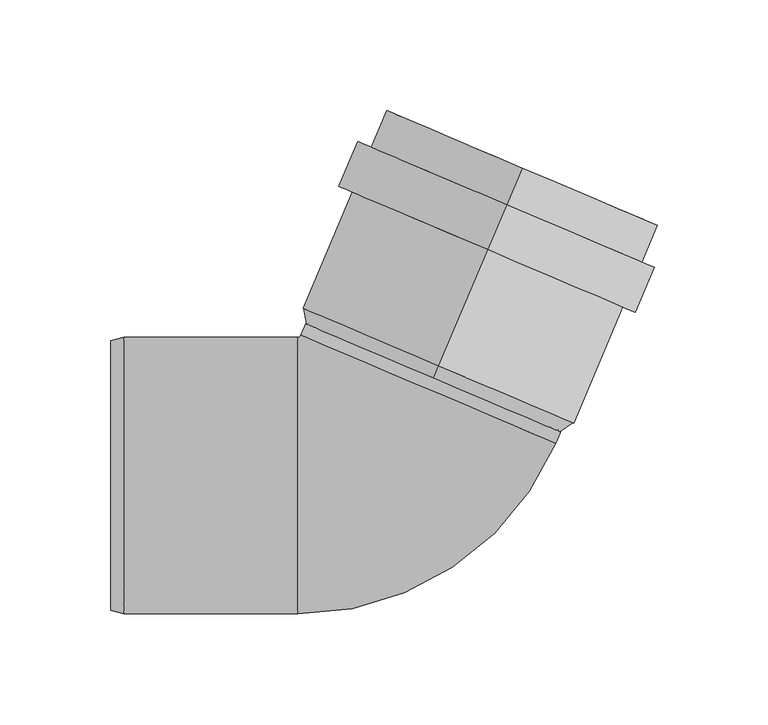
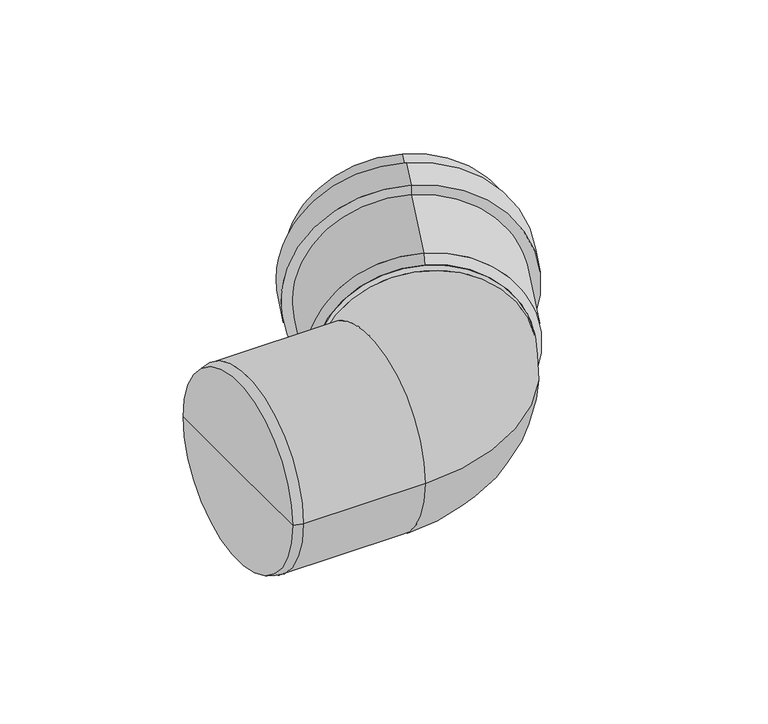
"""IFC4 building model written with IfcOpenShell, lengths in millimetres: pipe fitting geometry, OSMA_KG2000_PPKGB : Koleno 67°."""

from ifc_helpers import new_model, si_unit, point, frame, origin, place, context, project, spatial, polyline, circle_curve, ellipse_curve, trimmed, source, transform, mapped, element, save
from ifc_brep_helpers import plane_surface, cylinder_surface, revolved_surface, advanced_brep


def pipe_fitting_1789349f(model_context):
    return source(origin(), model_context, "Body", "AdvancedBrep", [
        advanced_brep(
        [(21.0994809, 49.7072621, 62.5), (21.0994809, 49.7072621, -62.5), (59.0004004, 138.9962329, -62.5), (59.0004004, 138.9962329, 62.5), (43.3711553, 102.1760387, 66.4), (43.3711553, 102.1760387, -66.4), (21.0994809, 49.7072621, -66.4), (21.0994809, 49.7072621, 66.4), (43.3711553, 102.1760387, 73.0), (43.3711553, 102.1760387, -73.0), (51.9672401, 122.4271455, 73.0), (51.9672401, 122.4271455, -73.0), (51.9672401, 122.4271455, 66.4), (51.9672401, 122.4271455, -66.4), (59.0004004, 138.9962329, 66.4), (59.0004004, 138.9962329, -66.4), (18.7550942, 44.184233, 58.6), (18.7550942, 44.184233, -58.6), (18.7550942, 44.184233, 62.5), (18.7550942, 44.184233, -62.5)],
        [
            (0, 1, circle_curve(frame((21.0994809, 49.7072621, 0.0), z_axis=(-0.3907311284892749, -0.9205048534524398, 0.0), x_axis=(0.0, 0.0, -1.0)), 62.5)),
            (1, 2),
            (2, 3, circle_curve(frame((59.0004004, 138.9962329, 0.0), z_axis=(0.3907311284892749, 0.9205048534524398, 0.0), x_axis=(0.0, 0.0, -1.0)), 62.5)),
            (3, 0),
            (1, 0, circle_curve(frame((21.0994809, 49.7072621, 0.0), z_axis=(-0.3907311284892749, -0.9205048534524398, 0.0), x_axis=(0.0, 0.0, -1.0)), 62.5)),
            (3, 2, circle_curve(frame((59.0004004, 138.9962329, 0.0), z_axis=(0.3907311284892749, 0.9205048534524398, 0.0), x_axis=(0.0, 0.0, -1.0)), 62.5)),
            (4, 5, circle_curve(frame((43.3711553, 102.1760387, 0.0), z_axis=(-0.3907311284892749, -0.9205048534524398, 0.0), x_axis=(0.0, 0.0, -1.0)), 66.4)),
            (5, 6),
            (6, 7, circle_curve(frame((21.0994809, 49.7072621, 0.0), z_axis=(0.3907311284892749, 0.9205048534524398, 0.0), x_axis=(0.0, 0.0, -1.0)), 66.4)),
            (7, 4),
            (5, 4, circle_curve(frame((43.3711553, 102.1760387, 0.0), z_axis=(-0.3907311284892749, -0.9205048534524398, 0.0), x_axis=(0.0, 0.0, -1.0)), 66.4)),
            (7, 6, circle_curve(frame((21.0994809, 49.7072621, 0.0), z_axis=(0.3907311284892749, 0.9205048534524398, 0.0), x_axis=(0.0, 0.0, -1.0)), 66.4)),
            (8, 9, circle_curve(frame((43.3711553, 102.1760387, 0.0), z_axis=(-0.3907311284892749, -0.9205048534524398, 0.0), x_axis=(0.0, 0.0, -1.0)), 73.0)),
            (9, 5),
            (4, 8),
            (9, 8, circle_curve(frame((43.3711553, 102.1760387, 0.0), z_axis=(-0.3907311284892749, -0.9205048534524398, 0.0), x_axis=(0.0, 0.0, -1.0)), 73.0)),
            (10, 11, circle_curve(frame((51.9672401, 122.4271455, 0.0), z_axis=(-0.3907311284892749, -0.9205048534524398, 0.0), x_axis=(0.0, 0.0, -1.0)), 73.0)),
            (11, 9),
            (8, 10),
            (11, 10, circle_curve(frame((51.9672401, 122.4271455, 0.0), z_axis=(-0.3907311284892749, -0.9205048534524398, 0.0), x_axis=(0.0, 0.0, -1.0)), 73.0)),
            (12, 13, circle_curve(frame((51.9672401, 122.4271455, 0.0), z_axis=(-0.3907311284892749, -0.9205048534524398, 0.0), x_axis=(0.0, 0.0, -1.0)), 66.4)),
            (13, 11),
            (10, 12),
            (13, 12, circle_curve(frame((51.9672401, 122.4271455, 0.0), z_axis=(-0.3907311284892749, -0.9205048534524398, 0.0), x_axis=(0.0, 0.0, -1.0)), 66.4)),
            (14, 15, circle_curve(frame((59.0004004, 138.9962329, 0.0), z_axis=(-0.3907311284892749, -0.9205048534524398, 0.0), x_axis=(0.0, 0.0, -1.0)), 66.4)),
            (15, 13),
            (12, 14),
            (15, 14, circle_curve(frame((59.0004004, 138.9962329, 0.0), z_axis=(-0.3907311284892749, -0.9205048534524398, 0.0), x_axis=(0.0, 0.0, -1.0)), 66.4)),
            (2, 15),
            (14, 3),
            (16, 17, circle_curve(frame((18.7550942, 44.184233, 0.0), z_axis=(-0.3907311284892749, -0.9205048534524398, 0.0), x_axis=(0.0, 0.0, -1.0)), 58.6)),
            (17, 1),
            (0, 16),
            (17, 16, circle_curve(frame((18.7550942, 44.184233, 0.0), z_axis=(-0.3907311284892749, -0.9205048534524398, 0.0), x_axis=(0.0, 0.0, -1.0)), 58.6)),
            (18, 19, circle_curve(frame((18.7550942, 44.184233, 0.0), z_axis=(-0.3907311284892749, -0.9205048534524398, 0.0), x_axis=(0.0, 0.0, -1.0)), 62.5)),
            (19, 17),
            (16, 18),
            (19, 18, circle_curve(frame((18.7550942, 44.184233, 0.0), z_axis=(-0.3907311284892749, -0.9205048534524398, 0.0), x_axis=(0.0, 0.0, -1.0)), 62.5)),
            (6, 19),
            (18, 7),
        ],
        [
            revolved_surface(polyline([(59.000400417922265, 138.99623289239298, -62.5), (21.099480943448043, 49.70726208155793, -62.5)]), (1102.0470748, 2596.2602084, 0.0), (0.3907311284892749, 0.9205048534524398, 0.0)),
            cylinder_surface(frame((1102.0470748, 2596.2602084, 0.0), z_axis=(0.3907311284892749, 0.9205048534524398, 0.0), x_axis=(0.0, 0.0, -1.0)), 66.4),
            plane_surface(frame((43.3711553, 102.1760387, 0.0), z_axis=(-0.3907311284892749, -0.9205048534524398, 0.0), x_axis=(0.0, 0.0, -1.0))),
            cylinder_surface(frame((1102.0470748, 2596.2602084, 0.0), z_axis=(0.3907311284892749, 0.9205048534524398, 0.0), x_axis=(0.0, 0.0, -1.0)), 73.0),
            plane_surface(frame((51.9672401, 122.4271455, 0.0), z_axis=(0.3907311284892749, 0.9205048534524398, 0.0), x_axis=(0.0, 0.0, -1.0))),
            plane_surface(frame((59.0004004, 138.9962329, 0.0), z_axis=(0.3907311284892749, 0.9205048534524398, 0.0), x_axis=(0.0, 0.0, -1.0))),
            revolved_surface(polyline([(21.0994809, 49.7072621, -62.5), (18.7550942, 44.184233, -58.6)]), (1102.0470748, 2596.2602084, 0.0), (0.3907311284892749, 0.9205048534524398, 0.0)),
            plane_surface(frame((18.7550942, 44.184233, 0.0), z_axis=(-0.3907311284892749, -0.9205048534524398, 0.0), x_axis=(0.0, 0.0, -1.0))),
            revolved_surface(polyline([(18.7550942, 44.184233, -62.5), (21.0994809, 49.7072621, -66.4)]), (1102.0470748, 2596.2602084, 0.0), (0.3907311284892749, 0.9205048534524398, 0.0)),
        ],
        [
            (0, [[1, 2, 3, 4]]),
            (0, [[5, -4, 6, -2]]),
            (1, [[7, 8, 9, 10]]),
            (1, [[11, -10, 12, -8]]),
            (2, [[13, 14, -7, 15]]),
            (2, [[16, -15, -11, -14]]),
            (3, [[17, 18, -13, 19]]),
            (3, [[20, -19, -16, -18]]),
            (4, [[21, 22, -17, 23]]),
            (4, [[24, -23, -20, -22]]),
            (1, [[25, 26, -21, 27]]),
            (1, [[28, -27, -24, -26]]),
            (5, [[-3, 29, -25, 30]]),
            (5, [[-6, -30, -28, -29]]),
            (6, [[31, 32, -1, 33]]),
            (6, [[34, -33, -5, -32]]),
            (7, [[35, 36, -31, 37]]),
            (7, [[38, -37, -34, -36]]),
            (8, [[-9, 39, -35, 40]]),
            (8, [[-12, -40, -38, -39]]),
        ],
    ),
        advanced_brep(
        [(-40.9799186, 63.4139033, 0.0), (-42.3606759, 62.5, 0.0), (-42.3606759, -62.5, 0.0), (74.083188, 14.5725122, 0.0), (16.5516347, 38.9932078, 62.5), (16.5516347, 38.9932078, -62.5), (-127.0, 0.0, 0.0), (-127.0, 60.8923048, 0.0), (-127.0, -60.8923048, 0.0), (-121.0, 62.5, 0.0), (-121.0, -62.5, 0.0), (78.6310343, 25.2865666, 0.0), (-36.4320724, 74.1279576, 0.0)],
        [
            (0, 1, circle_curve(frame((-42.3606759, 64.0, 0.0), z_axis=(0.0, 0.0, -1.0), x_axis=(0.0, -1.0, 0.0)), 1.5)),
            (1, 2, circle_curve(frame((-42.3606759, 0.0, 0.0), z_axis=(1.0, 0.0, 0.0), x_axis=(0.0, 1.0, 0.0)), 62.5)),
            (2, 3, circle_curve(frame((-42.3606759, 64.0, 0.0), z_axis=(0.0, 0.0, 1.0), x_axis=(0.0, -1.0, 0.0)), 126.5)),
            (3, 4, circle_curve(frame((16.5516347, 38.9932078, 0.0), z_axis=(-0.3907311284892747, -0.9205048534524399, 0.0), x_axis=(-0.9205048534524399, 0.3907311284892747, 0.0)), 62.5)),
            (4, 0, circle_curve(frame((16.5516347, 38.9932078, 0.0), z_axis=(-0.3907311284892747, -0.9205048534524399, 0.0), x_axis=(-0.9205048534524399, 0.3907311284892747, 0.0)), 62.5)),
            (0, 5, circle_curve(frame((16.5516347, 38.9932078, 0.0), z_axis=(-0.3907311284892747, -0.9205048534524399, 0.0), x_axis=(-0.9205048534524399, 0.3907311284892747, 0.0)), 62.5)),
            (5, 3, circle_curve(frame((16.5516347, 38.9932078, 0.0), z_axis=(-0.39073112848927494, -0.9205048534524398, 0.0), x_axis=(-0.9205048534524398, 0.39073112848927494, 0.0)), 62.5)),
            (2, 1, circle_curve(frame((-42.3606759, 0.0, 0.0), z_axis=(1.0, 0.0, 0.0), x_axis=(0.0, 1.0, 0.0)), 62.5)),
            (6, 7),
            (7, 8, circle_curve(frame((-127.0, 0.0, 0.0), z_axis=(-1.0, 0.0, 0.0), x_axis=(0.0, 1.0, 0.0)), 60.8923048)),
            (8, 6),
            (8, 7, circle_curve(frame((-127.0, 0.0, 0.0), z_axis=(-1.0, 0.0, 0.0), x_axis=(0.0, 1.0, 0.0)), 60.8923048)),
            (7, 9),
            (9, 10, circle_curve(frame((-121.0, 0.0, 0.0), z_axis=(-1.0, 0.0, 0.0), x_axis=(0.0, 1.0, 0.0)), 62.5)),
            (10, 8),
            (10, 9, circle_curve(frame((-121.0, 0.0, 0.0), z_axis=(-1.0, 0.0, 0.0), x_axis=(0.0, 1.0, 0.0)), 62.5)),
            (9, 1),
            (2, 10),
            (11, 12, circle_curve(frame((21.0994809, 49.7072621, 0.0), z_axis=(0.390731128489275, 0.9205048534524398, 0.0), x_axis=(-0.9205048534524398, 0.390731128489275, 0.0)), 62.5)),
            (12, 11, circle_curve(frame((21.0994809, 49.7072621, 0.0), z_axis=(0.390731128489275, 0.9205048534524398, 0.0), x_axis=(-0.9205048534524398, 0.390731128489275, 0.0)), 62.5)),
            (12, 0),
            (3, 11),
        ],
        [
            revolved_surface(trimmed(ellipse_curve(frame((-42.3606759, 0.0, 0.0), z_axis=(-1.0, 0.0, 0.0), x_axis=(0.0, 1.0, 0.0)), 62.5, 62.5), [point((-42.3606759, -62.5, 0.0))], [point((-42.3606759, 62.5, 0.0))], True, "CARTESIAN"), (-42.3606759, 64.0, 0.0), (0.0, 0.0, 1.0)),
            revolved_surface(trimmed(ellipse_curve(frame((-42.3606759, 0.0, 0.0), z_axis=(-1.0, 0.0, 0.0), x_axis=(0.0, 1.0, 0.0)), 62.5, 62.5), [point((-42.3606759, 62.5, 0.0))], [point((-42.3606759, -62.5, 0.0))], True, "CARTESIAN"), (-42.3606759, 64.0, 0.0), (0.0, 0.0, 1.0)),
            plane_surface(frame((-127.0, 0.0, 0.0), z_axis=(-1.0, 0.0, 0.0), x_axis=(0.0, 1.0, 0.0))),
            revolved_surface(polyline([(-121.0, 62.5, 0.0), (-127.0, 60.8923048, 0.0)]), (331.0587718, 0.0, 0.0), (-1.0, 0.0, 0.0)),
            cylinder_surface(frame((331.0587718, 0.0, 0.0), z_axis=(-1.0, 0.0, 0.0), x_axis=(0.0, 1.0, 0.0)), 62.5),
            plane_surface(frame((21.0994809, 49.7072621, 0.0), z_axis=(0.390731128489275, 0.9205048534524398, 0.0), x_axis=(0.0, 0.0, 1.0))),
            cylinder_surface(frame((16.5516347, 38.9932078, 0.0), z_axis=(-0.390731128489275, -0.9205048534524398, 0.0), x_axis=(-0.9205048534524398, 0.390731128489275, 0.0)), 62.5),
        ],
        [
            (0, [[1, 2, 3, 4, 5]]),
            (1, [[-1, 6, 7, -3, 8]]),
            (2, [[9, 10, 11]]),
            (2, [[-9, -11, 12]]),
            (3, [[-10, 13, 14, 15]]),
            (3, [[-12, -15, 16, -13]]),
            (4, [[-14, 17, -8, 18]]),
            (4, [[-16, -18, -2, -17]]),
            (5, [[19, 20]]),
            (6, [[-20, 21, -5, -4, 22]]),
            (6, [[-19, -22, -7, -6, -21]]),
        ],
    ),
    ])


if __name__ == "__main__":
    model = new_model("IFC4")
    model_context = context("Model", 3, world=origin())
    ifc_project = project(units=[si_unit("LENGTHUNIT", "METRE", prefix="MILLI")], contexts=[model_context])
    site = spatial("IfcSite", under=ifc_project)
    building = spatial("IfcBuilding", under=site)
    placement = place(None, origin())
    pipe_fitting_shape = pipe_fitting_1789349f(model_context)
    element("IfcPipeFitting", 1, ObjectType="OSMA_KG2000_PPKGB : Koleno 67°", at=placement, inside=building, context=model_context, shape_type="MappedRepresentation", body=[
        mapped(pipe_fitting_shape, transform((0.0, 0.0, 0.0), x_axis=(1.0, 0.0, 0.0), y_axis=(0.0, 1.0, 0.0), z_axis=(0.0, 0.0, 1.0))),
    ])
    save(model, "model.ifc")
